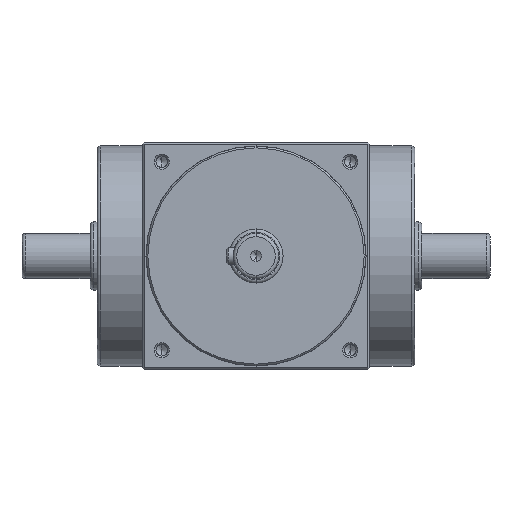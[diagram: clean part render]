
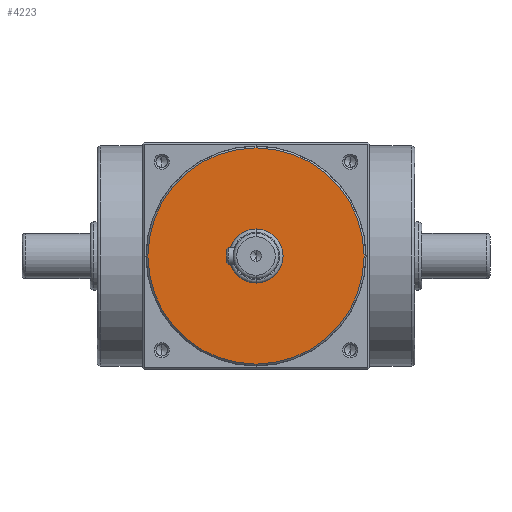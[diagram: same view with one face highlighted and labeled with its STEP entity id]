
A CAD part, front view. The second image highlights one B-rep face of the part: STEP entity #4223.
In plain terms, the highlighted planar face has unit normal (0, -1, 0).
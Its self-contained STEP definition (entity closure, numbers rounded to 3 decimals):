
#731 = VERTEX_POINT ( 'NONE', #6576 ) ;
#1081 = ORIENTED_EDGE ( 'NONE', *, *, #8720, .F. ) ;
#1175 = CARTESIAN_POINT ( 'NONE',  ( 0., -73.5, -30.95 ) ) ;
#1382 = AXIS2_PLACEMENT_3D ( 'NONE', #4026, #11197, #4065 ) ;
#1775 = ORIENTED_EDGE ( 'NONE', *, *, #8416, .T. ) ;
#2130 = PLANE ( 'NONE',  #9325 ) ;
#2236 = AXIS2_PLACEMENT_3D ( 'NONE', #11441, #2501, #9677 ) ;
#2306 = ORIENTED_EDGE ( 'NONE', *, *, #11362, .F. ) ;
#2501 = DIRECTION ( 'NONE',  ( 0., -1., 0. ) ) ;
#2771 = EDGE_LOOP ( 'NONE', ( #2306, #1081 ) ) ;
#2823 = FACE_BOUND ( 'NONE', #2771, .T. ) ;
#3744 = CARTESIAN_POINT ( 'NONE',  ( 0., -73.5, -7.75 ) ) ;
#4026 = CARTESIAN_POINT ( 'NONE',  ( 0., -73.5, 0. ) ) ;
#4065 = DIRECTION ( 'NONE',  ( 0., 0., -1. ) ) ;
#4223 = ADVANCED_FACE ( 'NONE', ( #8502, #2823 ), #2130, .T. ) ;
#4636 = DIRECTION ( 'NONE',  ( 0., 0., -1. ) ) ;
#4709 = DIRECTION ( 'NONE',  ( 0., -1., 0. ) ) ;
#5165 = EDGE_LOOP ( 'NONE', ( #1775, #7468 ) ) ;
#5473 = CARTESIAN_POINT ( 'NONE',  ( 0., -73.5, 0. ) ) ;
#5485 = DIRECTION ( 'NONE',  ( 0., -1., 0. ) ) ;
#5878 = CIRCLE ( 'NONE', #9053, 7.75 ) ;
#5985 = VERTEX_POINT ( 'NONE', #3744 ) ;
#6332 = EDGE_CURVE ( 'NONE', #6686, #9779, #8787, .T. ) ;
#6576 = CARTESIAN_POINT ( 'NONE',  ( 0., -73.5, 7.75 ) ) ;
#6686 = VERTEX_POINT ( 'NONE', #1175 ) ;
#7370 = CARTESIAN_POINT ( 'NONE',  ( 0., -73.5, 0. ) ) ;
#7468 = ORIENTED_EDGE ( 'NONE', *, *, #6332, .T. ) ;
#8041 = AXIS2_PLACEMENT_3D ( 'NONE', #8276, #9012, #4636 ) ;
#8148 = CARTESIAN_POINT ( 'NONE',  ( 0., -73.5, 30.95 ) ) ;
#8192 = CIRCLE ( 'NONE', #1382, 30.95 ) ;
#8276 = CARTESIAN_POINT ( 'NONE',  ( 0., -73.5, 0. ) ) ;
#8416 = EDGE_CURVE ( 'NONE', #9779, #6686, #8192, .T. ) ;
#8502 = FACE_OUTER_BOUND ( 'NONE', #5165, .T. ) ;
#8574 = DIRECTION ( 'NONE',  ( 0., 0., -1. ) ) ;
#8599 = DIRECTION ( 'NONE',  ( 0., 0., -1. ) ) ;
#8720 = EDGE_CURVE ( 'NONE', #5985, #731, #8866, .T. ) ;
#8787 = CIRCLE ( 'NONE', #2236, 30.95 ) ;
#8866 = CIRCLE ( 'NONE', #8041, 7.75 ) ;
#9012 = DIRECTION ( 'NONE',  ( 0., -1., 0. ) ) ;
#9053 = AXIS2_PLACEMENT_3D ( 'NONE', #5473, #5485, #8599 ) ;
#9325 = AXIS2_PLACEMENT_3D ( 'NONE', #7370, #4709, #8574 ) ;
#9677 = DIRECTION ( 'NONE',  ( 0., 0., -1. ) ) ;
#9779 = VERTEX_POINT ( 'NONE', #8148 ) ;
#11197 = DIRECTION ( 'NONE',  ( 0., -1., 0. ) ) ;
#11362 = EDGE_CURVE ( 'NONE', #731, #5985, #5878, .T. ) ;
#11441 = CARTESIAN_POINT ( 'NONE',  ( 0., -73.5, 0. ) ) ;
